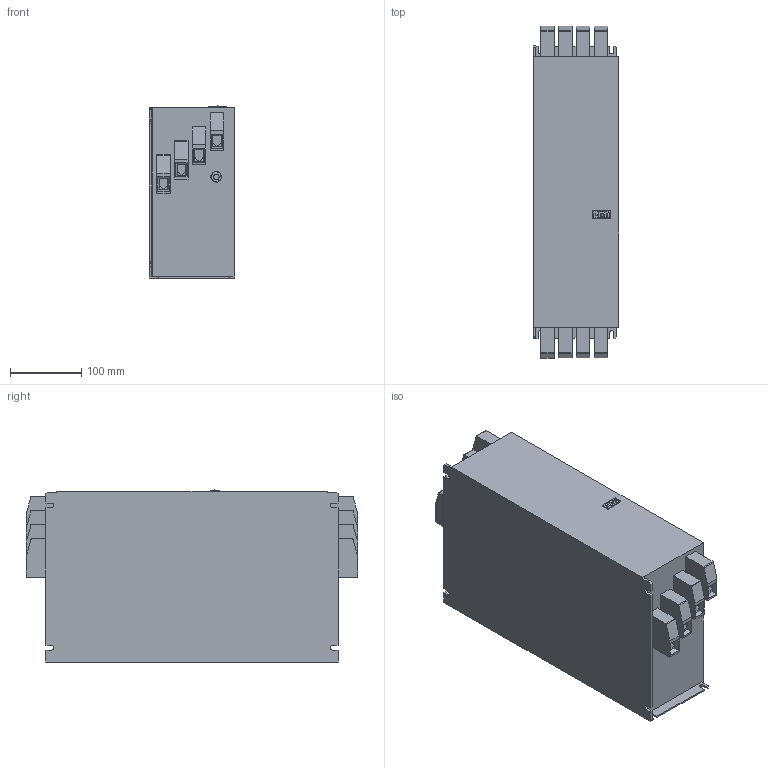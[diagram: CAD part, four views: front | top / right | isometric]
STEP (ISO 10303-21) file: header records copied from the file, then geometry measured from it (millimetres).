
FILE_DESCRIPTION (( 'STEP AP214' ), '1' );
FILE_NAME ('00E6X04-0022.STEP', '2023-07-10T12:43:05', ( '' ), ( '' ), 'SwSTEP 2.0', 'SolidWorks 2022', '' );
FILE_SCHEMA (( 'AUTOMOTIVE_DESIGN' ));
Length unit declared in the file: millimetre
Products named in the file (1): 00E6X04-0022
Bounding box: 120 x 466 x 241.52 mm (x, y, z)
Volume: 11291415.5 mm3; surface area: 407525 mm2
Topology: 1 solids, 1 shells, 326 faces, 829 edges, 534 vertices
Faces by surface type: plane 268, cylinder 45, bspline 13
Entity records: 10556 total; most frequent: CARTESIAN_POINT 2583, ORIENTED_EDGE 1658, DIRECTION 1447, EDGE_CURVE 829, VECTOR 659, LINE 659, VERTEX_POINT 534, AXIS2_PLACEMENT_3D 394
